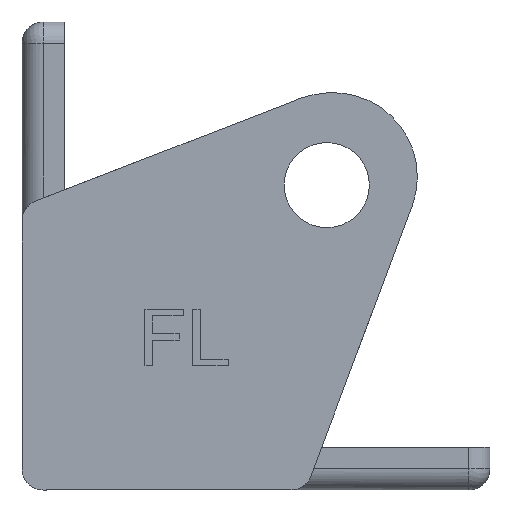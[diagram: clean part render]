
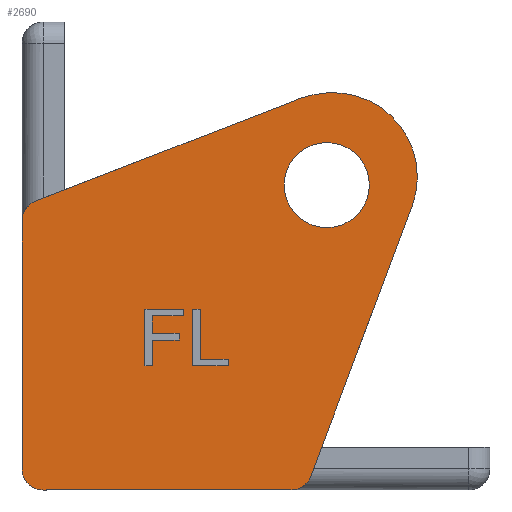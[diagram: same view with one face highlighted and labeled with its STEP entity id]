
A CAD part, front view. The second image highlights one B-rep face of the part: STEP entity #2690.
In plain terms, the highlighted planar face has unit normal (0, -1, 0).
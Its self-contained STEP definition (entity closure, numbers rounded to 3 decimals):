
#71=CIRCLE('',#2825,6.);
#87=CIRCLE('',#2847,3.);
#94=CIRCLE('',#2863,11.867);
#95=CIRCLE('',#2864,15.677);
#96=CIRCLE('',#2865,3.);
#97=CIRCLE('',#2866,3.);
#180=FACE_BOUND('',#560,.T.);
#181=FACE_BOUND('',#561,.T.);
#182=FACE_BOUND('',#562,.T.);
#240=PLANE('',#2862);
#372=FACE_OUTER_BOUND('',#559,.T.);
#559=EDGE_LOOP('',(#2339,#2340,#2341,#2342,#2343,#2344,#2345,#2346,#2347));
#560=EDGE_LOOP('',(#2348,#2349,#2350,#2351,#2352,#2353));
#561=EDGE_LOOP('',(#2354,#2355,#2356,#2357,#2358,#2359,#2360,#2361,#2362,
#2363));
#562=EDGE_LOOP('',(#2364));
#708=LINE('',#8453,#933);
#714=LINE('',#8479,#939);
#718=LINE('',#8487,#943);
#721=LINE('',#8493,#946);
#724=LINE('',#8499,#949);
#727=LINE('',#8505,#952);
#730=LINE('',#8510,#955);
#732=LINE('',#8516,#957);
#736=LINE('',#8524,#961);
#739=LINE('',#8530,#964);
#742=LINE('',#8536,#967);
#745=LINE('',#8542,#970);
#748=LINE('',#8548,#973);
#751=LINE('',#8554,#976);
#754=LINE('',#8560,#979);
#757=LINE('',#8566,#982);
#760=LINE('',#8571,#985);
#787=LINE('',#8673,#1012);
#791=LINE('',#8689,#1016);
#792=LINE('',#8695,#1017);
#933=VECTOR('',#3138,10.);
#939=VECTOR('',#3164,10.);
#943=VECTOR('',#3170,10.);
#946=VECTOR('',#3175,10.);
#949=VECTOR('',#3180,10.);
#952=VECTOR('',#3185,10.);
#955=VECTOR('',#3190,10.);
#957=VECTOR('',#3196,10.);
#961=VECTOR('',#3202,10.);
#964=VECTOR('',#3207,10.);
#967=VECTOR('',#3212,10.);
#970=VECTOR('',#3217,10.);
#973=VECTOR('',#3222,10.);
#976=VECTOR('',#3227,10.);
#979=VECTOR('',#3232,10.);
#982=VECTOR('',#3237,10.);
#985=VECTOR('',#3242,10.);
#1012=VECTOR('',#3341,10.);
#1016=VECTOR('',#3355,10.);
#1017=VECTOR('',#3360,10.);
#1274=VERTEX_POINT('',#8450);
#1275=VERTEX_POINT('',#8452);
#1284=VERTEX_POINT('',#8477);
#1285=VERTEX_POINT('',#8478);
#1288=VERTEX_POINT('',#8486);
#1290=VERTEX_POINT('',#8492);
#1292=VERTEX_POINT('',#8498);
#1294=VERTEX_POINT('',#8504);
#1296=VERTEX_POINT('',#8514);
#1297=VERTEX_POINT('',#8515);
#1300=VERTEX_POINT('',#8523);
#1302=VERTEX_POINT('',#8529);
#1304=VERTEX_POINT('',#8535);
#1306=VERTEX_POINT('',#8541);
#1308=VERTEX_POINT('',#8547);
#1310=VERTEX_POINT('',#8553);
#1312=VERTEX_POINT('',#8559);
#1314=VERTEX_POINT('',#8565);
#1317=VERTEX_POINT('',#8577);
#1347=VERTEX_POINT('',#8647);
#1348=VERTEX_POINT('',#8649);
#1354=VERTEX_POINT('',#8672);
#1361=VERTEX_POINT('',#8688);
#1362=VERTEX_POINT('',#8690);
#1363=VERTEX_POINT('',#8692);
#1364=VERTEX_POINT('',#8694);
#1595=EDGE_CURVE('',#1274,#1275,#708,.T.);
#1605=EDGE_CURVE('',#1284,#1285,#714,.T.);
#1609=EDGE_CURVE('',#1288,#1284,#718,.T.);
#1612=EDGE_CURVE('',#1290,#1288,#721,.T.);
#1615=EDGE_CURVE('',#1292,#1290,#724,.T.);
#1618=EDGE_CURVE('',#1294,#1292,#727,.T.);
#1621=EDGE_CURVE('',#1285,#1294,#730,.T.);
#1623=EDGE_CURVE('',#1296,#1297,#732,.T.);
#1627=EDGE_CURVE('',#1300,#1296,#736,.T.);
#1630=EDGE_CURVE('',#1302,#1300,#739,.T.);
#1633=EDGE_CURVE('',#1304,#1302,#742,.T.);
#1636=EDGE_CURVE('',#1306,#1304,#745,.T.);
#1639=EDGE_CURVE('',#1308,#1306,#748,.T.);
#1642=EDGE_CURVE('',#1310,#1308,#751,.T.);
#1645=EDGE_CURVE('',#1312,#1310,#754,.T.);
#1648=EDGE_CURVE('',#1314,#1312,#757,.T.);
#1651=EDGE_CURVE('',#1297,#1314,#760,.T.);
#1655=EDGE_CURVE('',#1317,#1317,#71,.T.);
#1689=EDGE_CURVE('',#1347,#1348,#87,.T.);
#1701=EDGE_CURVE('',#1348,#1354,#787,.T.);
#1709=EDGE_CURVE('',#1361,#1347,#791,.T.);
#1710=EDGE_CURVE('',#1362,#1361,#94,.T.);
#1711=EDGE_CURVE('',#1363,#1362,#95,.T.);
#1712=EDGE_CURVE('',#1364,#1363,#792,.T.);
#1713=EDGE_CURVE('',#1275,#1364,#96,.T.);
#1714=EDGE_CURVE('',#1354,#1274,#97,.T.);
#2339=ORIENTED_EDGE('',*,*,#1689,.F.);
#2340=ORIENTED_EDGE('',*,*,#1709,.F.);
#2341=ORIENTED_EDGE('',*,*,#1710,.F.);
#2342=ORIENTED_EDGE('',*,*,#1711,.F.);
#2343=ORIENTED_EDGE('',*,*,#1712,.F.);
#2344=ORIENTED_EDGE('',*,*,#1713,.F.);
#2345=ORIENTED_EDGE('',*,*,#1595,.F.);
#2346=ORIENTED_EDGE('',*,*,#1714,.F.);
#2347=ORIENTED_EDGE('',*,*,#1701,.F.);
#2348=ORIENTED_EDGE('',*,*,#1605,.T.);
#2349=ORIENTED_EDGE('',*,*,#1621,.T.);
#2350=ORIENTED_EDGE('',*,*,#1618,.T.);
#2351=ORIENTED_EDGE('',*,*,#1615,.T.);
#2352=ORIENTED_EDGE('',*,*,#1612,.T.);
#2353=ORIENTED_EDGE('',*,*,#1609,.T.);
#2354=ORIENTED_EDGE('',*,*,#1623,.T.);
#2355=ORIENTED_EDGE('',*,*,#1651,.T.);
#2356=ORIENTED_EDGE('',*,*,#1648,.T.);
#2357=ORIENTED_EDGE('',*,*,#1645,.T.);
#2358=ORIENTED_EDGE('',*,*,#1642,.T.);
#2359=ORIENTED_EDGE('',*,*,#1639,.T.);
#2360=ORIENTED_EDGE('',*,*,#1636,.T.);
#2361=ORIENTED_EDGE('',*,*,#1633,.T.);
#2362=ORIENTED_EDGE('',*,*,#1630,.T.);
#2363=ORIENTED_EDGE('',*,*,#1627,.T.);
#2364=ORIENTED_EDGE('',*,*,#1655,.T.);
#2690=ADVANCED_FACE('',(#372,#180,#181,#182),#240,.F.);
#2825=AXIS2_PLACEMENT_3D('',#8579,#3251,#3252);
#2847=AXIS2_PLACEMENT_3D('',#8650,#3313,#3314);
#2862=AXIS2_PLACEMENT_3D('',#8687,#3353,#3354);
#2863=AXIS2_PLACEMENT_3D('',#8691,#3356,#3357);
#2864=AXIS2_PLACEMENT_3D('',#8693,#3358,#3359);
#2865=AXIS2_PLACEMENT_3D('',#8696,#3361,#3362);
#2866=AXIS2_PLACEMENT_3D('',#8697,#3363,#3364);
#3138=DIRECTION('',(1.,0.,0.));
#3164=DIRECTION('',(-1.,0.,0.));
#3170=DIRECTION('',(0.,0.,-1.));
#3175=DIRECTION('',(-1.,0.,0.));
#3180=DIRECTION('',(0.,0.,-1.));
#3185=DIRECTION('',(1.,0.,0.));
#3190=DIRECTION('',(0.,0.,1.));
#3196=DIRECTION('',(-1.,0.,0.));
#3202=DIRECTION('',(0.,0.,1.));
#3207=DIRECTION('',(-1.,0.,0.));
#3212=DIRECTION('',(0.,0.,-1.));
#3217=DIRECTION('',(-1.,0.,0.));
#3222=DIRECTION('',(0.,0.,1.));
#3227=DIRECTION('',(-1.,0.,0.));
#3232=DIRECTION('',(0.,0.,-1.));
#3237=DIRECTION('',(1.,0.,0.));
#3242=DIRECTION('',(0.,0.,1.));
#3251=DIRECTION('center_axis',(0.,1.,0.));
#3252=DIRECTION('ref_axis',(-1.,0.,0.));
#3313=DIRECTION('center_axis',(0.,1.,0.));
#3314=DIRECTION('ref_axis',(-0.822,0.,-0.57));
#3341=DIRECTION('',(0.,0.,1.));
#3353=DIRECTION('center_axis',(0.,1.,0.));
#3354=DIRECTION('ref_axis',(0.,0.,-1.));
#3355=DIRECTION('',(-0.936,0.,0.351));
#3356=DIRECTION('center_axis',(0.,1.,0.));
#3357=DIRECTION('ref_axis',(0.997,0.,0.075));
#3358=DIRECTION('center_axis',(0.,1.,0.));
#3359=DIRECTION('ref_axis',(0.898,0.,0.44));
#3360=DIRECTION('',(0.361,0.,-0.932));
#3361=DIRECTION('center_axis',(0.,1.,0.));
#3362=DIRECTION('ref_axis',(0.565,0.,0.825));
#3363=DIRECTION('center_axis',(0.,1.,0.));
#3364=DIRECTION('ref_axis',(-0.707,0.,0.707));
#8450=CARTESIAN_POINT('',(-333.,-40.,16.));
#8452=CARTESIAN_POINT('',(-298.055,-40.,16.));
#8453=CARTESIAN_POINT('',(-296.,-40.,16.));
#8477=CARTESIAN_POINT('',(-317.546,-40.,-13.072));
#8478=CARTESIAN_POINT('',(-318.49,-40.,-13.072));
#8479=CARTESIAN_POINT('',(-316.773,-40.,-13.072));
#8486=CARTESIAN_POINT('',(-317.546,-40.,-9.132));
#8487=CARTESIAN_POINT('',(-317.546,-40.,-6.566));
#8492=CARTESIAN_POINT('',(-310.49,-40.,-9.132));
#8493=CARTESIAN_POINT('',(-313.245,-40.,-9.132));
#8498=CARTESIAN_POINT('',(-310.49,-40.,-8.073));
#8499=CARTESIAN_POINT('',(-310.49,-40.,-6.036));
#8504=CARTESIAN_POINT('',(-318.49,-40.,-8.073));
#8505=CARTESIAN_POINT('',(-317.245,-40.,-8.073));
#8510=CARTESIAN_POINT('',(-318.49,-40.,-8.536));
#8514=CARTESIAN_POINT('',(-314.856,-40.,-2.403));
#8515=CARTESIAN_POINT('',(-318.49,-40.,-2.403));
#8516=CARTESIAN_POINT('',(-315.428,-40.,-2.403));
#8523=CARTESIAN_POINT('',(-314.856,-40.,-6.158));
#8524=CARTESIAN_POINT('',(-314.856,-40.,-5.079));
#8529=CARTESIAN_POINT('',(-313.911,-40.,-6.158));
#8530=CARTESIAN_POINT('',(-314.956,-40.,-6.158));
#8535=CARTESIAN_POINT('',(-313.911,-40.,-2.403));
#8536=CARTESIAN_POINT('',(-313.911,-40.,-3.202));
#8541=CARTESIAN_POINT('',(-311.434,-40.,-2.403));
#8542=CARTESIAN_POINT('',(-313.717,-40.,-2.403));
#8547=CARTESIAN_POINT('',(-311.434,-40.,-6.741));
#8548=CARTESIAN_POINT('',(-311.434,-40.,-5.371));
#8553=CARTESIAN_POINT('',(-310.49,-40.,-6.741));
#8554=CARTESIAN_POINT('',(-313.245,-40.,-6.741));
#8559=CARTESIAN_POINT('',(-310.49,-40.,-1.344));
#8560=CARTESIAN_POINT('',(-310.49,-40.,-2.672));
#8565=CARTESIAN_POINT('',(-318.49,-40.,-1.344));
#8566=CARTESIAN_POINT('',(-317.245,-40.,-1.344));
#8571=CARTESIAN_POINT('',(-318.49,-40.,-3.202));
#8577=CARTESIAN_POINT('',(-287.,-40.,-26.981));
#8579=CARTESIAN_POINT('Origin',(-293.,-40.,-26.981));
#8647=CARTESIAN_POINT('',(-334.053,-40.,-24.73));
#8649=CARTESIAN_POINT('',(-336.,-40.,-21.921));
#8650=CARTESIAN_POINT('Origin',(-333.,-40.,-21.921));
#8672=CARTESIAN_POINT('',(-336.,-40.,13.));
#8673=CARTESIAN_POINT('',(-336.,-40.,-24.));
#8687=CARTESIAN_POINT('Origin',(-316.,-40.,-4.));
#8688=CARTESIAN_POINT('',(-296.,-40.,-39.));
#8689=CARTESIAN_POINT('',(-336.,-40.,-24.));
#8690=CARTESIAN_POINT('',(-280.,-40.,-27.));
#8691=CARTESIAN_POINT('Origin',(-291.833,-40.,-27.889));
#8692=CARTESIAN_POINT('',(-281.556,-40.,-21.274));
#8693=CARTESIAN_POINT('Origin',(-295.633,-40.,-28.174));
#8694=CARTESIAN_POINT('',(-295.258,-40.,14.084));
#8695=CARTESIAN_POINT('',(-281.556,-40.,-21.274));
#8696=CARTESIAN_POINT('Origin',(-298.055,-40.,13.));
#8697=CARTESIAN_POINT('Origin',(-333.,-40.,13.));
